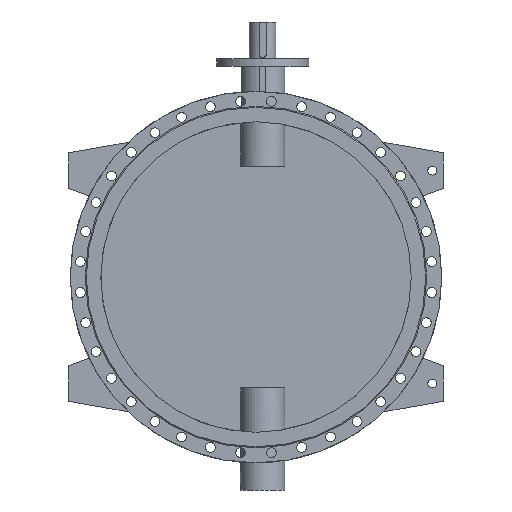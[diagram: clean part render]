
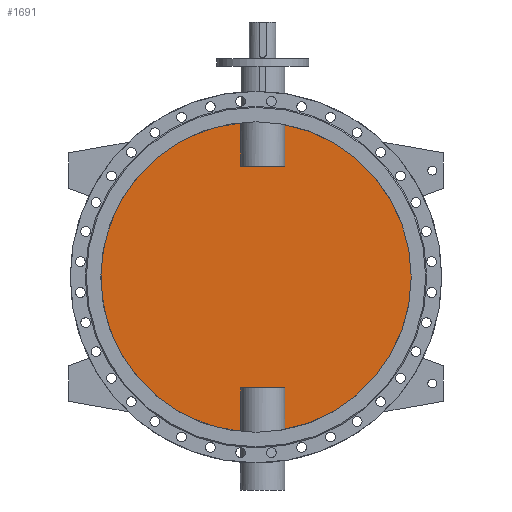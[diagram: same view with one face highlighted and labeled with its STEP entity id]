
A CAD part, front view. The second image highlights one B-rep face of the part: STEP entity #1691.
In plain terms, the highlighted planar face has unit normal (0, -1, 0).
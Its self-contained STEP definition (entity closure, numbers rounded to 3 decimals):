
#1691=ADVANCED_FACE('',(#3639),#3641,.F.);
#3639=FACE_BOUND('',#3640,.T.);
#3640=EDGE_LOOP('',(#4579,#4580,#4581,#4582,#4583,#4584,#4585,#4586));
#3641=PLANE('',#3642);
#3642=AXIS2_PLACEMENT_3D('',#3643,#3644,#3645);
#3643=CARTESIAN_POINT('',(0.,-5.,0.));
#3644=DIRECTION('',(0.,1.,0.));
#3645=DIRECTION('',(1.,0.,0.));
#4579=ORIENTED_EDGE('',*,*,#5055,.T.);
#4580=ORIENTED_EDGE('',*,*,#5069,.T.);
#4581=ORIENTED_EDGE('',*,*,#5070,.T.);
#4582=ORIENTED_EDGE('',*,*,#5071,.T.);
#4583=ORIENTED_EDGE('',*,*,#5057,.T.);
#4584=ORIENTED_EDGE('',*,*,#5072,.T.);
#4585=ORIENTED_EDGE('',*,*,#5073,.T.);
#4586=ORIENTED_EDGE('',*,*,#5074,.T.);
#5055=EDGE_CURVE('',#5845,#5846,#5847,.F.);
#5057=EDGE_CURVE('',#5850,#5848,#5851,.F.);
#5069=EDGE_CURVE('',#5846,#5873,#5874,.T.);
#5070=EDGE_CURVE('',#5873,#5875,#5876,.F.);
#5071=EDGE_CURVE('',#5875,#5850,#5877,.F.);
#5072=EDGE_CURVE('',#5848,#5878,#5879,.F.);
#5073=EDGE_CURVE('',#5878,#5880,#5881,.F.);
#5074=EDGE_CURVE('',#5880,#5845,#5882,.T.);
#5845=VERTEX_POINT('',#8359);
#5846=VERTEX_POINT('',#8360);
#5847=CIRCLE('',#8361,700.);
#5848=VERTEX_POINT('',#8365);
#5850=VERTEX_POINT('',#8426);
#5851=CIRCLE('',#8427,700.);
#5873=VERTEX_POINT('',#8838);
#5874=LINE('',#8839,#8840);
#5875=VERTEX_POINT('',#8842);
#5876=LINE('',#8843,#8844);
#5877=LINE('',#8846,#8847);
#5878=VERTEX_POINT('',#8849);
#5879=LINE('',#8850,#8851);
#5880=VERTEX_POINT('',#8853);
#5881=LINE('',#8854,#8855);
#5882=LINE('',#8857,#8858);
#8359=CARTESIAN_POINT('',(129.875,-5.,-687.846));
#8360=CARTESIAN_POINT('',(129.875,-5.,687.846));
#8361=AXIS2_PLACEMENT_3D('',#8362,#8363,#8364);
#8362=CARTESIAN_POINT('',(0.,-5.,0.));
#8363=DIRECTION('',(0.,1.,0.));
#8364=DIRECTION('',(0.186,0.,0.983));
#8365=CARTESIAN_POINT('',(-69.875,-5.,-696.504));
#8426=CARTESIAN_POINT('',(-69.875,-5.,696.504));
#8427=AXIS2_PLACEMENT_3D('',#8428,#8429,#8430);
#8428=CARTESIAN_POINT('',(0.,-5.,0.));
#8429=DIRECTION('',(0.,1.,0.));
#8430=DIRECTION('',(-0.1,0.,-0.995));
#8838=CARTESIAN_POINT('',(129.875,-5.,500.));
#8839=CARTESIAN_POINT('',(129.875,-5.,687.846));
#8840=VECTOR('',#8841,1.);
#8841=DIRECTION('',(0.,0.,-1.));
#8842=CARTESIAN_POINT('',(-69.875,-5.,500.));
#8843=CARTESIAN_POINT('',(-69.875,-5.,500.));
#8844=VECTOR('',#8845,1.);
#8845=DIRECTION('',(1.,0.,0.));
#8846=CARTESIAN_POINT('',(-69.875,-5.,696.504));
#8847=VECTOR('',#8848,1.);
#8848=DIRECTION('',(0.,0.,-1.));
#8849=CARTESIAN_POINT('',(-69.875,-5.,-500.));
#8850=CARTESIAN_POINT('',(-69.875,-5.,-500.));
#8851=VECTOR('',#8852,1.);
#8852=DIRECTION('',(0.,0.,-1.));
#8853=CARTESIAN_POINT('',(129.875,-5.,-500.));
#8854=CARTESIAN_POINT('',(129.875,-5.,-500.));
#8855=VECTOR('',#8856,1.);
#8856=DIRECTION('',(-1.,0.,0.));
#8857=CARTESIAN_POINT('',(129.875,-5.,-500.));
#8858=VECTOR('',#8859,1.);
#8859=DIRECTION('',(0.,0.,-1.));
